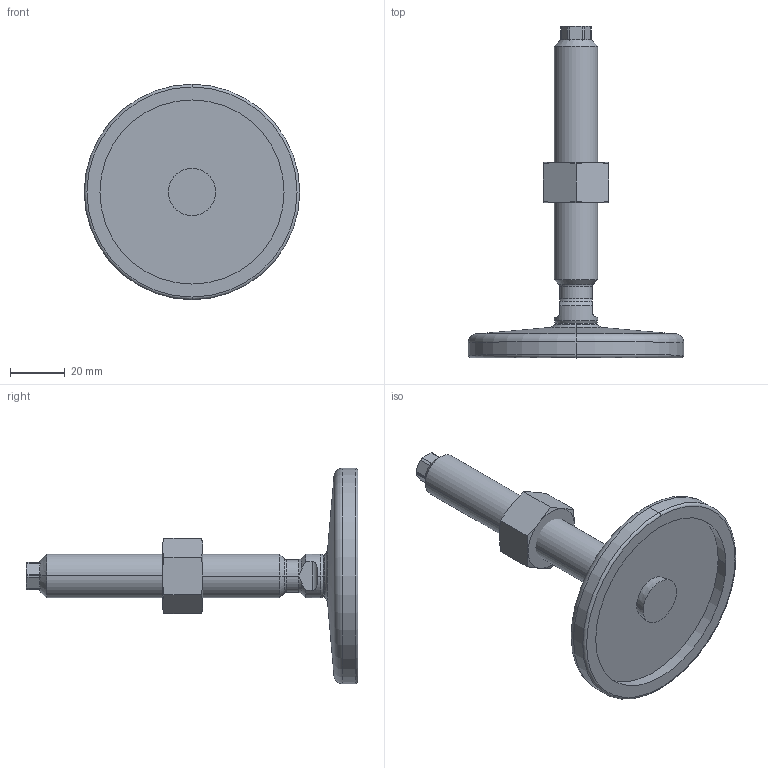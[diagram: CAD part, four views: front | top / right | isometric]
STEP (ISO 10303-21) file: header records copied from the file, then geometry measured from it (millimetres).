
FILE_DESCRIPTION (( 'STEP AP214' ), '1' );
FILE_NAME ('21-80-M16-100-D0-VK.step', '2020-10-02T17:36:01', ( '' ), ( '' ), 'SwSTEP 2.0', 'SolidWorks 2019', '' );
FILE_SCHEMA (( 'AUTOMOTIVE_DESIGN' ));
Length unit declared in the file: millimetre
Products named in the file (4): WB21_Fußteller 21^WB21_V_D0-080-R10-B7 (M8 M10_M12_M16); 21-80-M16-100-D0-VK; WB21_Spindel_V^WB21_V_M16-100; WB4032^WB21_V_M16
Assembly tree (3 placements, depth 2):
  21-80-M16-100-D0-VK
    WB21_Fußteller 21^WB21_V_D0-080-R10-B7 (M8 M10_M12_M16)
    WB21_Spindel_V^WB21_V_M16-100
    WB4032^WB21_V_M16
Bounding box: 79 x 121.64 x 79 mm (x, y, z)
Volume: 57083.4 mm3; surface area: 21466 mm2
Topology: 3 solids, 3 shells, 101 faces, 225 edges, 133 vertices
Faces by surface type: cone 33, plane 29, cylinder 25, torus 10, sphere 4
Entity records: 3168 total; most frequent: CARTESIAN_POINT 741, DIRECTION 492, ORIENTED_EDGE 450, EDGE_CURVE 225, AXIS2_PLACEMENT_3D 212, VERTEX_POINT 133, EDGE_LOOP 106, CIRCLE 105
